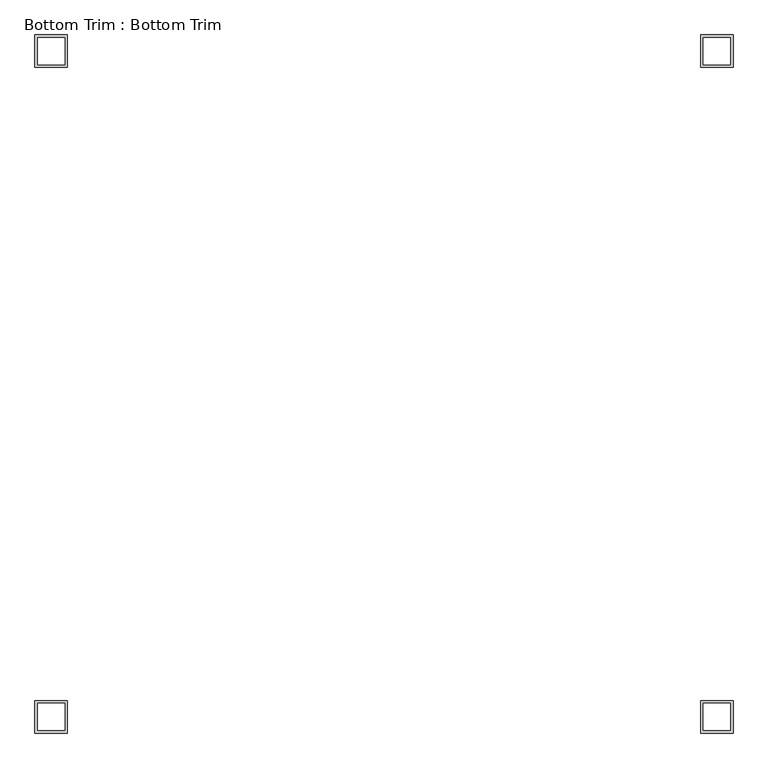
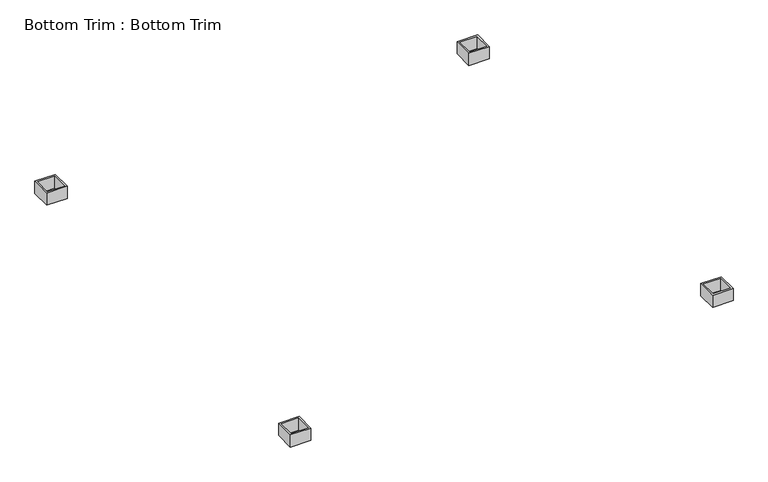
"""IFC4 building model written with IfcOpenShell, lengths in millimetres: column geometry, Bottom Trim : Bottom Trim."""

import ifcopenshell
import ifcopenshell.guid

model = None  # the IFC model being written
_history = None  # IfcOwnerHistory: only IFC2X3 demands one
_inside = {}  # id of a spatial element -> (the spatial element, [elements in it])
_under = {}  # id of a project, library or spatial element -> (it, [spatial elements below it])
_declared = {}  # id of a project -> (the project, [libraries it declares])
_typed = {}  # id of a type object -> (the type object, [elements of that type])
_made_of = {}  # id of a material, layer set ... -> (it, [elements and type objects made of it])


def new_model(schema):
    """Start an empty IFC model of exactly this schema.

    Asked for "IFC4X3", IfcOpenShell would pick the latest addendum, in which some entities
    have other attributes; the version numbers below select the first issue.
    IFC2X3 requires an IfcOwnerHistory on every rooted entity: one is made here for all.
    """
    global model, _history
    if schema == "IFC4X3":
        model = ifcopenshell.file(schema_version=(4, 3, 0, 0))
    else:
        model = ifcopenshell.file(schema=schema)
    _inside.clear()
    _under.clear()
    _declared.clear()
    _typed.clear()
    _made_of.clear()
    _history = None
    if model.schema == "IFC2X3":
        org = make("IfcOrganization", Name="unknown")
        user = make(
            "IfcPersonAndOrganization",
            ThePerson=make("IfcPerson", FamilyName="unknown"),
            TheOrganization=org,
        )
        app = make(
            "IfcApplication",
            ApplicationDeveloper=org,
            Version="unknown",
            ApplicationFullName="unknown",
            ApplicationIdentifier="unknown",
        )
        _history = make(
            "IfcOwnerHistory",
            OwningUser=user,
            OwningApplication=app,
            ChangeAction="ADDED",
            CreationDate=0,
        )
    return model


def make(cls, **values):
    """One entity of the class cls with the attributes given. An attribute that is None is left unset."""
    return model.create_entity(
        cls, **{name: value for name, value in values.items() if value is not None}
    )


def rooted(cls, **values):
    """An entity with a GlobalId (a new one), such as an element, a storey or a relation."""
    return make(cls, GlobalId=ifcopenshell.guid.new(), OwnerHistory=_history, **values)


def si_unit(unit_type, name, prefix=None):
    """IfcSIUnit, for example si_unit("LENGTHUNIT", "METRE", prefix="MILLI")."""
    return make("IfcSIUnit", UnitType=unit_type, Prefix=prefix, Name=name)


def assignment(units):
    """IfcUnitAssignment: the units of a project."""
    return None if units is None else make("IfcUnitAssignment", Units=units)


def point(xyz):
    """IfcCartesianPoint."""
    return None if xyz is None else make("IfcCartesianPoint", Coordinates=xyz)


def direction(xyz):
    """IfcDirection."""
    return None if xyz is None else make("IfcDirection", DirectionRatios=xyz)


def frame(location, z_axis=None, x_axis=None):
    """IfcAxis2Placement3D, a coordinate frame: its origin and axes. An axis left out is left unset."""
    return make(
        "IfcAxis2Placement3D",
        Location=point(location),
        Axis=direction(z_axis),
        RefDirection=direction(x_axis),
    )


def origin():
    """The frame at (0, 0, 0) with its axes left unset."""
    return frame((0.0, 0.0, 0.0))


def origin_with_axes():
    """The frame at (0, 0, 0) with the z axis (0, 0, 1) and the x axis (1, 0, 0) written out."""
    return frame((0.0, 0.0, 0.0), z_axis=(0.0, 0.0, 1.0), x_axis=(1.0, 0.0, 0.0))


def place(relative_to, where):
    """IfcLocalPlacement: puts the frame where relative to a parent placement (None: the world)."""
    return make(
        "IfcLocalPlacement", PlacementRelTo=relative_to, RelativePlacement=where
    )


def context(
    kind, dimensions, precision=None, world=None, true_north=None, identifier=None
):
    """IfcGeometricRepresentationContext, for example the 3D "Model" context."""
    return make(
        "IfcGeometricRepresentationContext",
        ContextIdentifier=identifier,
        ContextType=kind,
        CoordinateSpaceDimension=dimensions,
        Precision=precision,
        WorldCoordinateSystem=world,
        TrueNorth=true_north,
    )


def project(units=None, contexts=None):
    """IfcProject with its units and contexts."""
    return rooted(
        "IfcProject",
        Name="project",
        RepresentationContexts=contexts,
        UnitsInContext=assignment(units),
    )


def spatial(cls, under=None, at=None, **own):
    """A site, building, storey or space (cls), placed at a placement, below another one or the project."""
    s = rooted(cls, ObjectPlacement=at, **own)
    if under is not None:
        _under.setdefault(under.id(), (under, []))[1].append(s)
    return s


def polyline(points):
    """IfcPolyline through the points."""
    return make("IfcPolyline", Points=[point(p) for p in points])


def outline(outer, holes=None, kind="AREA"):
    """IfcArbitraryClosedProfileDef: a profile drawn as a closed curve; with holes, ...WithVoids."""
    if holes is None:
        return make("IfcArbitraryClosedProfileDef", ProfileType=kind, OuterCurve=outer)
    return make(
        "IfcArbitraryProfileDefWithVoids",
        ProfileType=kind,
        OuterCurve=outer,
        InnerCurves=holes,
    )


def extrude(swept, where, along, depth):
    """IfcExtrudedAreaSolid: the profile swept, set in the frame where, extruded along a direction by depth."""
    return make(
        "IfcExtrudedAreaSolid",
        SweptArea=swept,
        Position=where,
        ExtrudedDirection=direction(along),
        Depth=depth,
    )


def shape(context_of_items, identifier, shape_type, items):
    """IfcShapeRepresentation: the items that make up one representation, for example the "Body"."""
    return make(
        "IfcShapeRepresentation",
        ContextOfItems=context_of_items,
        RepresentationIdentifier=identifier,
        RepresentationType=shape_type,
        Items=items,
    )


def source(mapping_origin, context_of_items, identifier, shape_type, items):
    """IfcRepresentationMap: a shape defined once, which mapped items show again and again."""
    return make(
        "IfcRepresentationMap",
        MappingOrigin=mapping_origin,
        MappedRepresentation=shape(context_of_items, identifier, shape_type, items),
    )


def transform(
    local_origin,
    x_axis=None,
    y_axis=None,
    z_axis=None,
    scale=None,
    scale2=None,
    scale3=None,
    uniform=True,
):
    """IfcCartesianTransformationOperator3D, or its non-uniform kind. x_axis, y_axis, z_axis: its Axis1, 2, 3."""
    if uniform:
        return make(
            "IfcCartesianTransformationOperator3D",
            Axis1=direction(x_axis),
            Axis2=direction(y_axis),
            LocalOrigin=point(local_origin),
            Scale=scale,
            Axis3=direction(z_axis),
        )
    return make(
        "IfcCartesianTransformationOperator3DnonUniform",
        Axis1=direction(x_axis),
        Axis2=direction(y_axis),
        LocalOrigin=point(local_origin),
        Scale=scale,
        Axis3=direction(z_axis),
        Scale2=scale2,
        Scale3=scale3,
    )


def mapped(mapping_source, mapping_target):
    """IfcMappedItem: shows the shape of a source again, moved by a transform."""
    return make(
        "IfcMappedItem", MappingSource=mapping_source, MappingTarget=mapping_target
    )


def made_of(thing, what):
    """Note that an element or type object is made of a material, layer set ...; save() writes the relation."""
    if what is not None:
        _made_of.setdefault(what.id(), (what, []))[1].append(thing)
    return thing


def element(
    cls,
    number,
    at=None,
    inside=None,
    cuts=None,
    type_object=None,
    material=None,
    context=None,
    identifier="Body",
    shape_type=None,
    held_by="IfcProductDefinitionShape",
    body=None,
    shapes=None,
    **own,
):
    """One element of the class cls, such as IfcWall. Its Tag is "e" and its number.

    at: its placement. inside: the storey or other place that contains it. cuts: it is an
    opening in that element (IfcRelVoidsElement). A single representation is given by context,
    identifier, shape_type and body (its items); several are given by shapes. held_by: the class
    of the entity that holds the representations. save() writes the other relations.
    """
    e = rooted(cls, Tag="e%d" % number, ObjectPlacement=at, **own)
    if body is not None:
        shapes = [shape(context, identifier, shape_type, body)]
    if shapes is not None:
        e.Representation = make(held_by, Representations=shapes)
    if inside is not None:
        _inside.setdefault(inside.id(), (inside, []))[1].append(e)
    if cuts is not None:
        rooted(
            "IfcRelVoidsElement", RelatingBuildingElement=cuts, RelatedOpeningElement=e
        )
    if type_object is not None:
        _typed.setdefault(type_object.id(), (type_object, []))[1].append(e)
    return made_of(e, material)


def aggregate(whole, parts):
    """IfcRelAggregates: a whole, such as a stair, and the parts it consists of."""
    return rooted("IfcRelAggregates", RelatingObject=whole, RelatedObjects=parts)


def save(model, path):
    """Write the relations noted so far, then the file.

    IfcRelAggregates (storeys below a building ...), IfcRelContainedInSpatialStructure (elements
    in a storey), IfcRelDefinesByType, IfcRelAssociatesMaterial and IfcRelDeclares: one each for
    every whole, place, type object, material and project.
    """
    for whole, parts in _under.values():
        aggregate(whole, parts)
    for where, things in _inside.values():
        rooted(
            "IfcRelContainedInSpatialStructure",
            RelatedElements=things,
            RelatingStructure=where,
        )
    for kind, things in _typed.values():
        rooted("IfcRelDefinesByType", RelatedObjects=things, RelatingType=kind)
    for what, things in _made_of.values():
        rooted("IfcRelAssociatesMaterial", RelatedObjects=things, RelatingMaterial=what)
    for by, libraries in _declared.values():
        rooted("IfcRelDeclares", RelatingContext=by, RelatedDefinitions=libraries)
    model.write(path)


def bottom_trim_bottom_trim_ac09adf2(model_context):
    return source(origin(), model_context, "Body", "SweptSolid", [
        extrude(outline(polyline([(16554.1718679, 8211.0615582), (16554.1718679, 7988.8115582), (16331.9218679, 7988.8115582), (16331.9218679, 8211.0615582), (16554.1718679, 8211.0615582)]), holes=[polyline([(16535.1218679, 8192.0115582), (16350.9718679, 8192.0115582), (16350.9718679, 8007.8615582), (16535.1218679, 8007.8615582), (16535.1218679, 8192.0115582)])]), origin_with_axes(), (0.0, 0.0, 1.0), 139.7),
        extrude(outline(polyline([(16554.1718679, 12783.0615582), (16554.1718679, 12560.8115582), (16331.9218679, 12560.8115582), (16331.9218679, 12783.0615582), (16554.1718679, 12783.0615582)]), holes=[polyline([(16535.1218679, 12764.0115582), (16350.9718679, 12764.0115582), (16350.9718679, 12579.8615582), (16535.1218679, 12579.8615582), (16535.1218679, 12764.0115582)])]), origin_with_axes(), (0.0, 0.0, 1.0), 139.7),
        extrude(outline(polyline([(11982.1718679, 12783.0615582), (11982.1718679, 12560.8115582), (11759.9218679, 12560.8115582), (11759.9218679, 12783.0615582), (11982.1718679, 12783.0615582)]), holes=[polyline([(11963.1218679, 12764.0115582), (11778.9718679, 12764.0115582), (11778.9718679, 12579.8615582), (11963.1218679, 12579.8615582), (11963.1218679, 12764.0115582)])]), origin_with_axes(), (0.0, 0.0, 1.0), 139.7),
        extrude(outline(polyline([(11982.1718679, 8211.0615582), (11982.1718679, 7988.8115582), (11759.9218679, 7988.8115582), (11759.9218679, 8211.0615582), (11982.1718679, 8211.0615582)]), holes=[polyline([(11963.1218679, 8192.0115582), (11778.9718679, 8192.0115582), (11778.9718679, 8007.8615582), (11963.1218679, 8007.8615582), (11963.1218679, 8192.0115582)])]), origin_with_axes(), (0.0, 0.0, 1.0), 139.7),
    ])


if __name__ == "__main__":
    model = new_model("IFC4")
    model_context = context("Model", 3, world=origin())
    ifc_project = project(units=[si_unit("LENGTHUNIT", "METRE", prefix="MILLI")], contexts=[model_context])
    site = spatial("IfcSite", under=ifc_project)
    building = spatial("IfcBuilding", under=site)
    placement = place(None, origin())
    bottom_trim_bottom_trim_shape = bottom_trim_bottom_trim_ac09adf2(model_context)
    element("IfcColumn", 1, ObjectType="Bottom Trim : Bottom Trim", at=placement, inside=building, context=model_context, shape_type="MappedRepresentation", body=[
        mapped(bottom_trim_bottom_trim_shape, transform((0.0, 0.0, 0.0), x_axis=(1.0, 0.0, 0.0), y_axis=(0.0, 1.0, 0.0), z_axis=(0.0, 0.0, 1.0))),
    ])
    save(model, "model.ifc")
